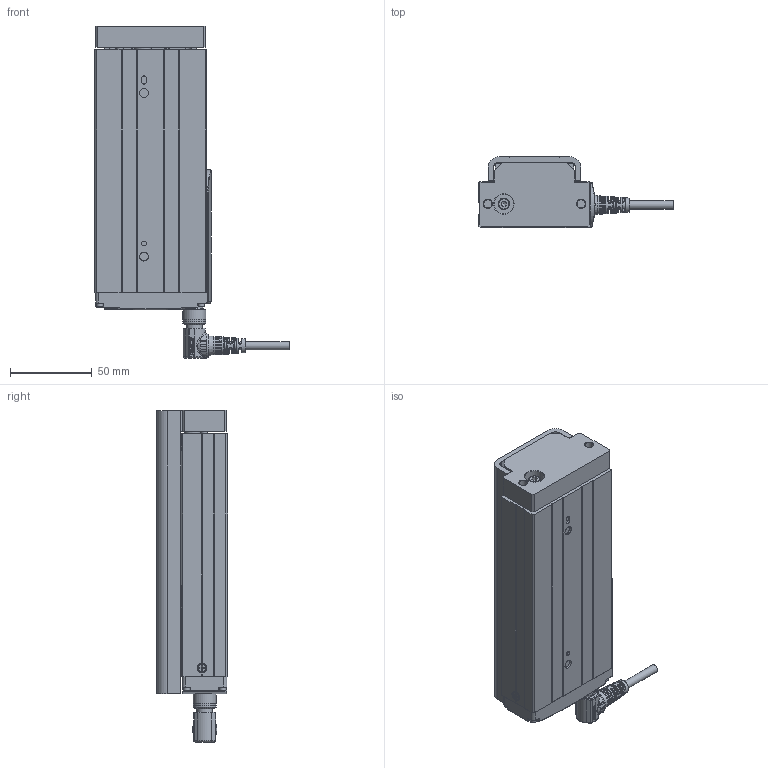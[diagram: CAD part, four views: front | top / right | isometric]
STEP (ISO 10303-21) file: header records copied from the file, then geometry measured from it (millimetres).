
FILE_DESCRIPTION(/* description */ ('STEP AP203'),/* implementation_level */ '2;1');
FILE_NAME(/* name */ 'D:\暫\2025.02.06 CSG 3D\CSG25\CSG25-S100-WL.stp',/* time_stamp */ '2025-02-08T10:06:45+08:00',/* author */ ('T10033'),/* organization */ (''),/* preprocessor_version */ 'ST-DEVELOPER v18.1',/* originating_system */ 'Autodesk Inventor 2020',/* authorisation */ '');
FILE_SCHEMA (('CONFIG_CONTROL_DESIGN'));
Products named in the file (17): CSG25-50行程-180接頭-完整組合; countersunk flat head cross recess screw_iso_ISO 7046-1 - M2.5 x 4 - 
Z - 4N; ©T©wªO-·¥­­¾×ª
O4-M2¤ú; socket head cap screw_iso_ISO 4762 M2.5 x 6 - 6N; socket head cap screw_iso_ISO 4762 M2.5 x 8 - 8N; ¶ì½¦ºÝ»-L¼Ë¦¡
(TOYO); socket head cap screw_iso_ISO 4762 M2 x 12 - 12N; M12 -14PIN  ªOºÝ-²Ä¤@ºØ
³W®æ; CSG25-50¥»Åé3ª©-ªo¤Õ
½Õ¾ã¨¤«×; CSG25-Carriage-newtype; Solid1-2; M12-14PIN 線端90度接頭-05中繼線; socket head cap screw_iso_ISO 4762 M2.5 x 5 - 5N; 12003-000221-­×§ï; 22024-000496; CNS 3932 - M 4 x 0.7 x 12; CNS 4558 - M5 x 0.8 x 12
Assembly tree (28 placements, depth 2):
  CSG25-50行程-180接頭-完整組合
    socket head cap screw_iso_ISO 4762 M2.5 x 8 - 8N  x8
    countersunk flat head cross recess screw_iso_ISO 7046-1 - M2.5 x 4 - 
Z - 4N
    ©T©wªO-·¥­­¾×ª
O4-M2¤ú
    socket head cap screw_iso_ISO 4762 M2.5 x 6 - 6N  x2
    ¶ì½¦ºÝ»-L¼Ë¦¡
(TOYO)
    socket head cap screw_iso_ISO 4762 M2 x 12 - 12N  x4
    M12 -14PIN  ªOºÝ-²Ä¤@ºØ
³W®æ
    CSG25-50¥»Åé3ª©-ªo¤Õ
½Õ¾ã¨¤«×
    CSG25-Carriage-newtype
    Solid1-2
    M12-14PIN 線端90度接頭-05中繼線
    socket head cap screw_iso_ISO 4762 M2.5 x 5 - 5N
    12003-000221-­×§ï
    22024-000496
    CNS 3932 - M 4 x 0.7 x 12
    CNS 4558 - M5 x 0.8 x 12  x2
Bounding box: 118.75 x 43.5 x 203 mm (x, y, z)
Volume: 404935 mm3; surface area: 98915.5 mm2
Topology: 42 solids, 51 shells, 2978 faces, 8190 edges, 5439 vertices
Faces by surface type: plane 1429, bspline 647, cylinder 492, cone 282, torus 124, sphere 4
Full cylindrical faces by diameter (mm): 0.6 x14, 0.65 x14, 1 x14, 1.6 x4, 2 x4, 2.05 x3, 2.5 x12, 2.9 x2, 3 x3, 3.8 x4, 4 x1, 4.134 x8, 4.5 x11, 4.7 x1, 5 x6, 5.3 x2, 5.4 x4, 5.5 x4, 6 x3, 7 x1, 8 x1, 8.9 x1, 9 x12, 9.5 x2, 9.6 x1, 10 x6, 10.4 x2, 10.5 x2, 10.9 x1, 11 x3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
Entity records: 115035 total; most frequent: CARTESIAN_POINT 44506, ORIENTED_EDGE 15100, DIRECTION 13226, EDGE_CURVE 7568, VERTEX_POINT 5052, AXIS2_PLACEMENT_3D 4617, LINE 3992, VECTOR 3992
